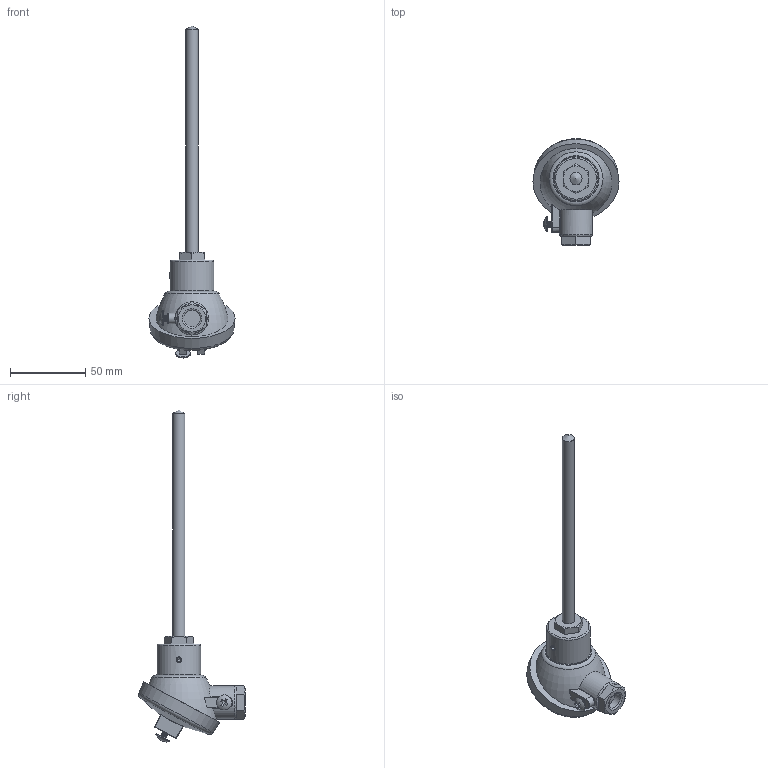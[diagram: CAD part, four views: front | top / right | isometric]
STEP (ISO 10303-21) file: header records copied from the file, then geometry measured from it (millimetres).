
FILE_DESCRIPTION (( 'STEP AP203' ), '1' );
FILE_NAME ('YIT30N_4(0).STEP', '2024-12-11T04:50:14', ( '' ), ( '' ), 'SwSTEP 2.0', 'SolidWorks 2021', '' );
FILE_SCHEMA (( 'CONFIG_CONTROL_DESIGN' ));
Length unit declared in the file: millimetre
Products named in the file (1): YIT30N_4(0)
Bounding box: 57 x 70.64 x 219.9 mm (x, y, z)
Volume: 85479 mm3; surface area: 17812.5 mm2
Topology: 1 solids, 2 shells, 186 faces, 445 edges, 275 vertices
Faces by surface type: plane 88, cylinder 47, bspline 19, cone 13, torus 11, sphere 8
Full cylindrical faces by diameter (mm): 3.5 x3, 3.6 x1, 3.8 x10, 8 x1, 10 x2, 11 x1, 16 x1, 16.5 x1, 22 x1, 29 x1
Entity records: 7863 total; most frequent: CARTESIAN_POINT 4280, ORIENTED_EDGE 714, DIRECTION 677, EDGE_CURVE 357, AXIS2_PLACEMENT_3D 263, VERTEX_POINT 230, EDGE_LOOP 217, FACE_OUTER_BOUND 195
